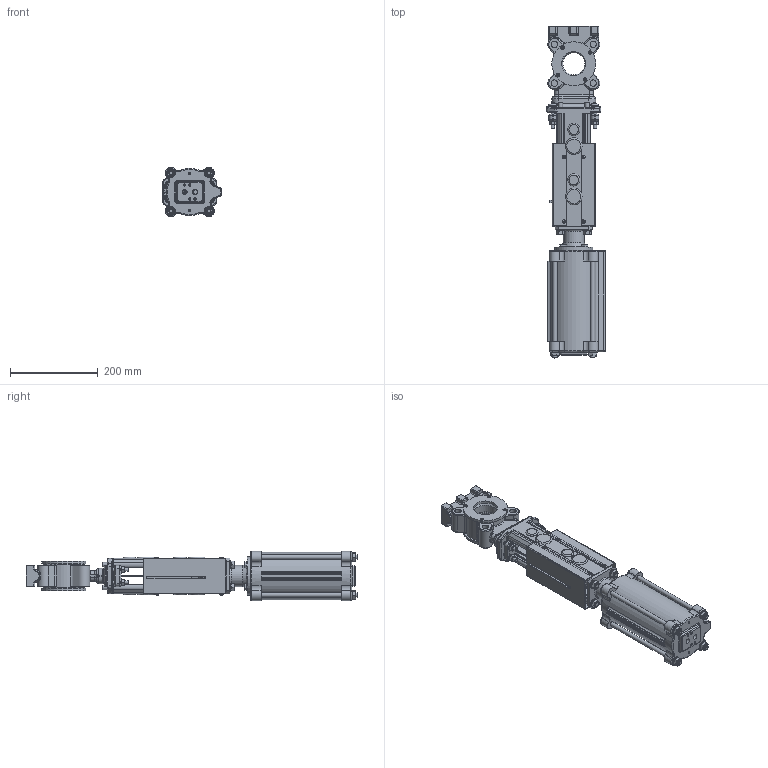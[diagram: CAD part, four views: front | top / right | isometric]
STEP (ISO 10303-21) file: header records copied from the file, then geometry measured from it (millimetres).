
FILE_DESCRIPTION(/* description */ (''),/* implementation_level */ '2;1');
FILE_NAME(/* name */ 'F:\3D-block färdiga för export\SLV-SLF\DN 50\SLV DN 50-PN10-FRSC100-115 LDR.stp',/* time_stamp */ '2021-06-16T13:04:07+02:00',/* author */ ('MATZET'),/* organization */ (''),/* preprocessor_version */ 'ST-DEVELOPER v18',/* originating_system */ 'Autodesk Inventor 2020',/* authorisation */ '');
FILE_SCHEMA (('AUTOMOTIVE_DESIGN { 1 0 10303 214 3 1 1 }'));
Products named in the file (1): SLV DN 50-PN10-FRSC100-115 LDR
Bounding box: 134 x 757 x 112.17 mm (x, y, z)
Volume: 2302507.9 mm3; surface area: 837418 mm2
Topology: 1 solids, 1 shells, 2409 faces, 6132 edges, 3837 vertices
Faces by surface type: plane 875, cylinder 662, cone 306, torus 305, bspline 187, sphere 74
Full cylindrical faces by diameter (mm): 3 x10, 4 x14, 4.134 x4, 4.2 x12, 4.5 x2, 4.917 x3, 5 x8, 6 x3, 6.4 x2, 7 x9, 8 x23, 8.4 x4, 9 x6, 10 x20, 10.5 x8, 11 x8, 11.445 x2, 11.63 x4, 12 x2, 14 x4, 15 x6, 15.5 x1, 16 x5, 18 x4, 20 x8, 20.15 x2, 22 x1, 24 x5, 26 x1, 26.4 x1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
Entity records: 108418 total; most frequent: CARTESIAN_POINT 48656, DIRECTION 12459, ORIENTED_EDGE 12110, EDGE_CURVE 6055, AXIS2_PLACEMENT_3D 5224, VERTEX_POINT 3837, CIRCLE 2797, EDGE_LOOP 2694
